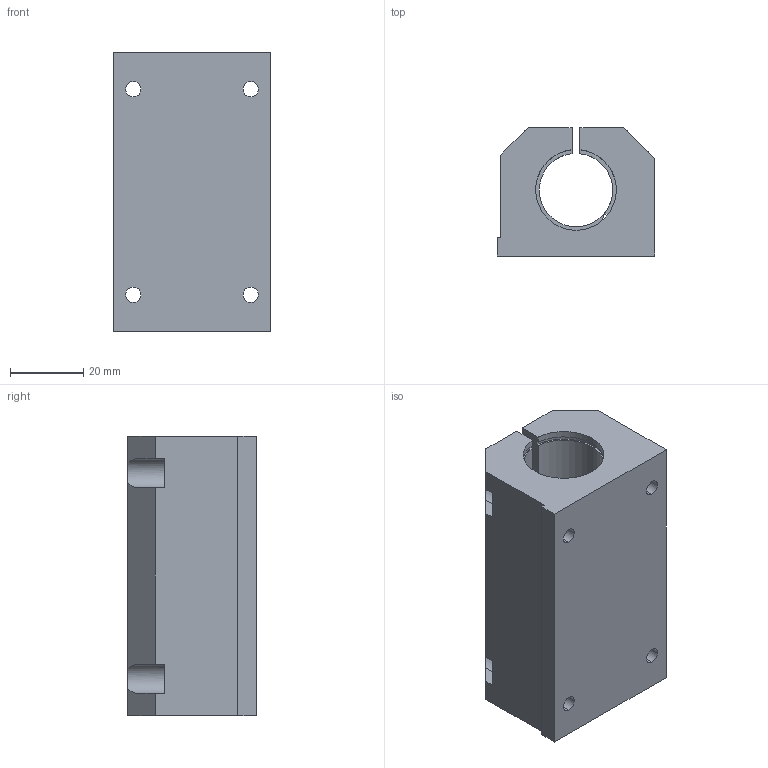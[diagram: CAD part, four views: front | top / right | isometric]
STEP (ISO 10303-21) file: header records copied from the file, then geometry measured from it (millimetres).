
FILE_DESCRIPTION (( 'STEP AP214' ), '1' );
FILE_NAME ('KTGE32-12.step', '2020-03-04T13:26:13', ( '' ), ( '' ), 'SwSTEP 2.0', 'SolidWorks 2019', '' );
FILE_SCHEMA (( 'AUTOMOTIVE_DESIGN' ));
Length unit declared in the file: millimetre
Products named in the file (1): KTGE32-12
Bounding box: 43 x 35 x 76 mm (x, y, z)
Volume: 73362.4 mm3; surface area: 21837.5 mm2
Topology: 1 solids, 1 shells, 97 faces, 276 edges, 180 vertices
Faces by surface type: cylinder 50, plane 39, cone 8
Entity records: 3429 total; most frequent: CARTESIAN_POINT 686, ORIENTED_EDGE 544, DIRECTION 533, EDGE_CURVE 272, AXIS2_PLACEMENT_3D 193, VERTEX_POINT 180, LINE 147, VECTOR 147
